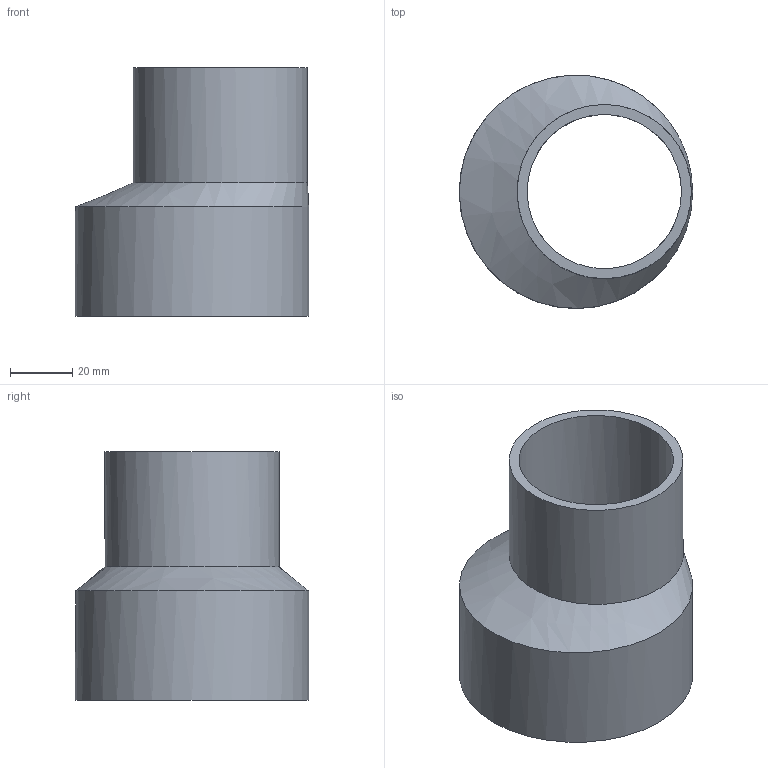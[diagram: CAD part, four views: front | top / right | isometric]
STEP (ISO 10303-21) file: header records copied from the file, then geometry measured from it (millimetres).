
FILE_DESCRIPTION(/* description */ (''),/* implementation_level */ '2;1');
FILE_NAME(/* name */ 'Z:\Geberit\Export\NewStep\Reduktion_Ipart\stp\307050.stp',/* time_stamp */ '2014-04-03T18:13:38+02:00',/* author */ ('nelson'),/* organization */ (''),/* preprocessor_version */ 'ST-DEVELOPER v15.2',/* originating_system */ 'Autodesk Inventor 2014',/* authorisation */ '');
FILE_SCHEMA (('AUTOMOTIVE_DESIGN { 1 0 10303 214 3 1 1 }'));
Length unit declared in the file: millimetre
Products named in the file (1): 307050
Bounding box: 75 x 75 x 80 mm (x, y, z)
Volume: 53246.9 mm3; surface area: 34471 mm2
Topology: 1 solids, 1 shells, 8 faces, 18 edges, 12 vertices
Faces by surface type: cylinder 4, bspline 2, plane 2
Full cylindrical faces by diameter (mm): 49.6 x1, 56 x1, 67.8 x1, 75 x1
Entity records: 271 total; most frequent: CARTESIAN_POINT 71, DIRECTION 38, ORIENTED_EDGE 28, AXIS2_PLACEMENT_3D 19, EDGE_LOOP 14, EDGE_CURVE 14, CIRCLE 12, VERTEX_POINT 12
